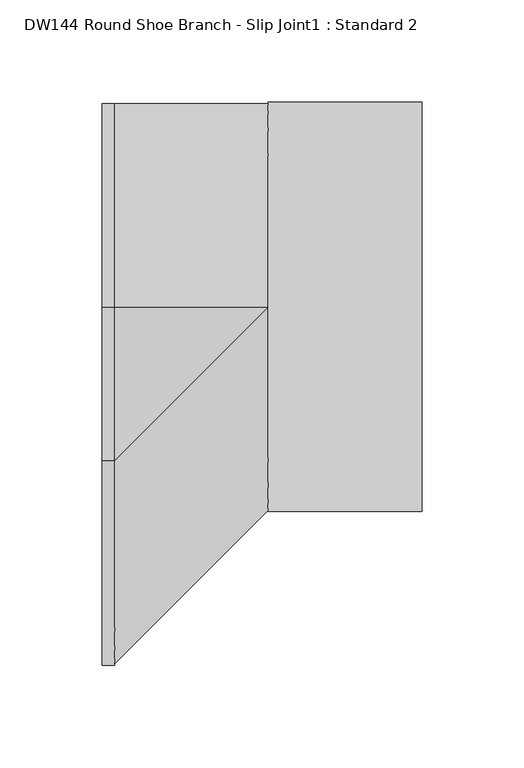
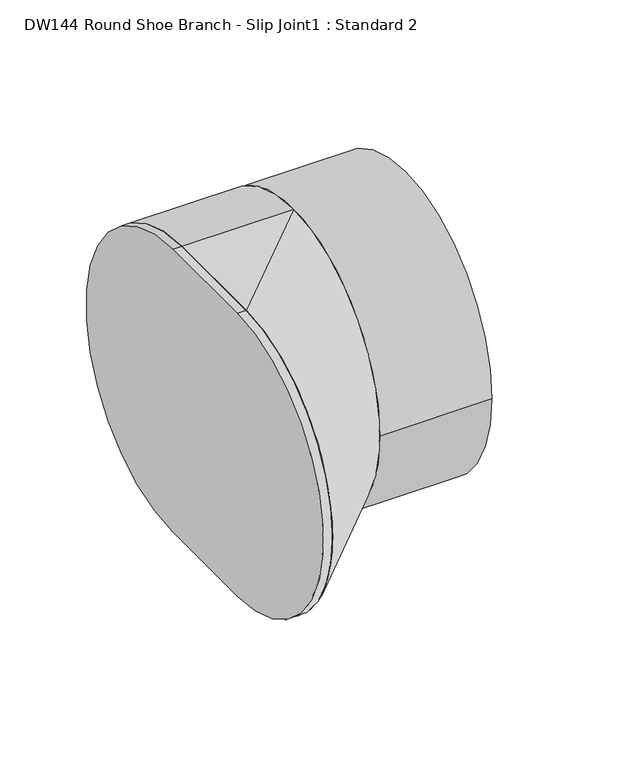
"""IFC4 building model written with IfcOpenShell, lengths in millimetres: duct fitting geometry, DW144 Round Shoe Branch - Slip Joint1 : Standard 2."""

import ifcopenshell
import ifcopenshell.guid

model = None  # the IFC model being written
_history = None  # IfcOwnerHistory: only IFC2X3 demands one
_inside = {}  # id of a spatial element -> (the spatial element, [elements in it])
_under = {}  # id of a project, library or spatial element -> (it, [spatial elements below it])
_declared = {}  # id of a project -> (the project, [libraries it declares])
_typed = {}  # id of a type object -> (the type object, [elements of that type])
_made_of = {}  # id of a material, layer set ... -> (it, [elements and type objects made of it])


def new_model(schema):
    """Start an empty IFC model of exactly this schema.

    Asked for "IFC4X3", IfcOpenShell would pick the latest addendum, in which some entities
    have other attributes; the version numbers below select the first issue.
    IFC2X3 requires an IfcOwnerHistory on every rooted entity: one is made here for all.
    """
    global model, _history
    if schema == "IFC4X3":
        model = ifcopenshell.file(schema_version=(4, 3, 0, 0))
    else:
        model = ifcopenshell.file(schema=schema)
    _inside.clear()
    _under.clear()
    _declared.clear()
    _typed.clear()
    _made_of.clear()
    _history = None
    if model.schema == "IFC2X3":
        org = make("IfcOrganization", Name="unknown")
        user = make(
            "IfcPersonAndOrganization",
            ThePerson=make("IfcPerson", FamilyName="unknown"),
            TheOrganization=org,
        )
        app = make(
            "IfcApplication",
            ApplicationDeveloper=org,
            Version="unknown",
            ApplicationFullName="unknown",
            ApplicationIdentifier="unknown",
        )
        _history = make(
            "IfcOwnerHistory",
            OwningUser=user,
            OwningApplication=app,
            ChangeAction="ADDED",
            CreationDate=0,
        )
    return model


def make(cls, **values):
    """One entity of the class cls with the attributes given. An attribute that is None is left unset."""
    return model.create_entity(
        cls, **{name: value for name, value in values.items() if value is not None}
    )


def rooted(cls, **values):
    """An entity with a GlobalId (a new one), such as an element, a storey or a relation."""
    return make(cls, GlobalId=ifcopenshell.guid.new(), OwnerHistory=_history, **values)


def si_unit(unit_type, name, prefix=None):
    """IfcSIUnit, for example si_unit("LENGTHUNIT", "METRE", prefix="MILLI")."""
    return make("IfcSIUnit", UnitType=unit_type, Prefix=prefix, Name=name)


def assignment(units):
    """IfcUnitAssignment: the units of a project."""
    return None if units is None else make("IfcUnitAssignment", Units=units)


def point(xyz):
    """IfcCartesianPoint."""
    return None if xyz is None else make("IfcCartesianPoint", Coordinates=xyz)


def direction(xyz):
    """IfcDirection."""
    return None if xyz is None else make("IfcDirection", DirectionRatios=xyz)


def frame(location, z_axis=None, x_axis=None):
    """IfcAxis2Placement3D, a coordinate frame: its origin and axes. An axis left out is left unset."""
    return make(
        "IfcAxis2Placement3D",
        Location=point(location),
        Axis=direction(z_axis),
        RefDirection=direction(x_axis),
    )


def frame_2d(location, x_axis=None):
    """IfcAxis2Placement2D, a coordinate frame in the plane: its origin and x axis."""
    return make(
        "IfcAxis2Placement2D", Location=point(location), RefDirection=direction(x_axis)
    )


def origin():
    """The frame at (0, 0, 0) with its axes left unset."""
    return frame((0.0, 0.0, 0.0))


def origin_2d():
    """The frame at (0, 0) in the plane with its x axis left unset."""
    return frame_2d((0.0, 0.0))


def place(relative_to, where):
    """IfcLocalPlacement: puts the frame where relative to a parent placement (None: the world)."""
    return make(
        "IfcLocalPlacement", PlacementRelTo=relative_to, RelativePlacement=where
    )


def context(
    kind, dimensions, precision=None, world=None, true_north=None, identifier=None
):
    """IfcGeometricRepresentationContext, for example the 3D "Model" context."""
    return make(
        "IfcGeometricRepresentationContext",
        ContextIdentifier=identifier,
        ContextType=kind,
        CoordinateSpaceDimension=dimensions,
        Precision=precision,
        WorldCoordinateSystem=world,
        TrueNorth=true_north,
    )


def project(units=None, contexts=None):
    """IfcProject with its units and contexts."""
    return rooted(
        "IfcProject",
        Name="project",
        RepresentationContexts=contexts,
        UnitsInContext=assignment(units),
    )


def spatial(cls, under=None, at=None, **own):
    """A site, building, storey or space (cls), placed at a placement, below another one or the project."""
    s = rooted(cls, ObjectPlacement=at, **own)
    if under is not None:
        _under.setdefault(under.id(), (under, []))[1].append(s)
    return s


def polyline(points):
    """IfcPolyline through the points."""
    return make("IfcPolyline", Points=[point(p) for p in points])


def circle_curve(where, radius):
    """IfcCircle in the frame where."""
    return make("IfcCircle", Position=where, Radius=radius)


def trimmed(basis, trim1, trim2, sense, master):
    """IfcTrimmedCurve: the piece of a basis curve between two trims."""
    return make(
        "IfcTrimmedCurve",
        BasisCurve=basis,
        Trim1=trim1,
        Trim2=trim2,
        SenseAgreement=sense,
        MasterRepresentation=master,
    )


def segment(curve, same_sense, transition):
    """IfcCompositeCurveSegment."""
    return make(
        "IfcCompositeCurveSegment",
        Transition=transition,
        SameSense=same_sense,
        ParentCurve=curve,
    )


def composite_curve(segments, self_intersect=None):
    """IfcCompositeCurve: segments joined end to end."""
    return make("IfcCompositeCurve", Segments=segments, SelfIntersect=self_intersect)


def outline(outer, holes=None, kind="AREA"):
    """IfcArbitraryClosedProfileDef: a profile drawn as a closed curve; with holes, ...WithVoids."""
    if holes is None:
        return make("IfcArbitraryClosedProfileDef", ProfileType=kind, OuterCurve=outer)
    return make(
        "IfcArbitraryProfileDefWithVoids",
        ProfileType=kind,
        OuterCurve=outer,
        InnerCurves=holes,
    )


def extrude(swept, where, along, depth):
    """IfcExtrudedAreaSolid: the profile swept, set in the frame where, extruded along a direction by depth."""
    return make(
        "IfcExtrudedAreaSolid",
        SweptArea=swept,
        Position=where,
        ExtrudedDirection=direction(along),
        Depth=depth,
    )


def shape(context_of_items, identifier, shape_type, items):
    """IfcShapeRepresentation: the items that make up one representation, for example the "Body"."""
    return make(
        "IfcShapeRepresentation",
        ContextOfItems=context_of_items,
        RepresentationIdentifier=identifier,
        RepresentationType=shape_type,
        Items=items,
    )


def source(mapping_origin, context_of_items, identifier, shape_type, items):
    """IfcRepresentationMap: a shape defined once, which mapped items show again and again."""
    return make(
        "IfcRepresentationMap",
        MappingOrigin=mapping_origin,
        MappedRepresentation=shape(context_of_items, identifier, shape_type, items),
    )


def transform(
    local_origin,
    x_axis=None,
    y_axis=None,
    z_axis=None,
    scale=None,
    scale2=None,
    scale3=None,
    uniform=True,
):
    """IfcCartesianTransformationOperator3D, or its non-uniform kind. x_axis, y_axis, z_axis: its Axis1, 2, 3."""
    if uniform:
        return make(
            "IfcCartesianTransformationOperator3D",
            Axis1=direction(x_axis),
            Axis2=direction(y_axis),
            LocalOrigin=point(local_origin),
            Scale=scale,
            Axis3=direction(z_axis),
        )
    return make(
        "IfcCartesianTransformationOperator3DnonUniform",
        Axis1=direction(x_axis),
        Axis2=direction(y_axis),
        LocalOrigin=point(local_origin),
        Scale=scale,
        Axis3=direction(z_axis),
        Scale2=scale2,
        Scale3=scale3,
    )


def mapped(mapping_source, mapping_target):
    """IfcMappedItem: shows the shape of a source again, moved by a transform."""
    return make(
        "IfcMappedItem", MappingSource=mapping_source, MappingTarget=mapping_target
    )


def made_of(thing, what):
    """Note that an element or type object is made of a material, layer set ...; save() writes the relation."""
    if what is not None:
        _made_of.setdefault(what.id(), (what, []))[1].append(thing)
    return thing


def element(
    cls,
    number,
    at=None,
    inside=None,
    cuts=None,
    type_object=None,
    material=None,
    context=None,
    identifier="Body",
    shape_type=None,
    held_by="IfcProductDefinitionShape",
    body=None,
    shapes=None,
    **own,
):
    """One element of the class cls, such as IfcWall. Its Tag is "e" and its number.

    at: its placement. inside: the storey or other place that contains it. cuts: it is an
    opening in that element (IfcRelVoidsElement). A single representation is given by context,
    identifier, shape_type and body (its items); several are given by shapes. held_by: the class
    of the entity that holds the representations. save() writes the other relations.
    """
    e = rooted(cls, Tag="e%d" % number, ObjectPlacement=at, **own)
    if body is not None:
        shapes = [shape(context, identifier, shape_type, body)]
    if shapes is not None:
        e.Representation = make(held_by, Representations=shapes)
    if inside is not None:
        _inside.setdefault(inside.id(), (inside, []))[1].append(e)
    if cuts is not None:
        rooted(
            "IfcRelVoidsElement", RelatingBuildingElement=cuts, RelatedOpeningElement=e
        )
    if type_object is not None:
        _typed.setdefault(type_object.id(), (type_object, []))[1].append(e)
    return made_of(e, material)


def aggregate(whole, parts):
    """IfcRelAggregates: a whole, such as a stair, and the parts it consists of."""
    return rooted("IfcRelAggregates", RelatingObject=whole, RelatedObjects=parts)


def save(model, path):
    """Write the relations noted so far, then the file.

    IfcRelAggregates (storeys below a building ...), IfcRelContainedInSpatialStructure (elements
    in a storey), IfcRelDefinesByType, IfcRelAssociatesMaterial and IfcRelDeclares: one each for
    every whole, place, type object, material and project.
    """
    for whole, parts in _under.values():
        aggregate(whole, parts)
    for where, things in _inside.values():
        rooted(
            "IfcRelContainedInSpatialStructure",
            RelatedElements=things,
            RelatingStructure=where,
        )
    for kind, things in _typed.values():
        rooted("IfcRelDefinesByType", RelatedObjects=things, RelatingType=kind)
    for what, things in _made_of.values():
        rooted("IfcRelAssociatesMaterial", RelatedObjects=things, RelatingMaterial=what)
    for by, libraries in _declared.values():
        rooted("IfcRelDeclares", RelatingContext=by, RelatedDefinitions=libraries)
    model.write(path)


def plane_surface(at):
    """IfcPlane: the flat surface through the origin of the frame at, square to its z axis."""
    return make("IfcPlane", Position=at)


def cylinder_surface(at, radius):
    """IfcCylindricalSurface: all points at the distance radius from the z axis of the frame at."""
    return make("IfcCylindricalSurface", Position=at, Radius=radius)


def extruded_surface(curve, direction_of_extrusion, depth):
    """IfcSurfaceOfLinearExtrusion: the curve pushed along a direction by depth."""
    return make(
        "IfcSurfaceOfLinearExtrusion",
        SweptCurve=make("IfcArbitraryOpenProfileDef", ProfileType="CURVE", Curve=curve),
        ExtrudedDirection=direction(direction_of_extrusion),
        Depth=depth,
    )


def advanced_brep(points, edges, surfaces, faces):
    """IfcAdvancedBrep: a solid bounded by faces that lie on surfaces and meet in shared edges.

    An edge is (start, end): straight between two places in points (the first is 0);
    or (start, end, curve); or (start, end, curve, False) where it runs against its curve.
    A face is (place in surfaces, loops), or (place, loops, False) where it looks against
    its surface's normal. A loop lists edges by number (the first is 1), with a minus sign
    where the edge is run from its end to its start. The first loop is the outer one.
    """
    corners = [point(p) for p in points]
    vertices = [make("IfcVertexPoint", VertexGeometry=c) for c in corners]
    made = []
    for start, end, *more in edges:
        made.append(
            make(
                "IfcEdgeCurve",
                EdgeStart=vertices[start],
                EdgeEnd=vertices[end],
                EdgeGeometry=more[0] if more else make("IfcPolyline", Points=[corners[start], corners[end]]),
                SameSense=more[1] if len(more) > 1 else True,
            )
        )
    hull = []
    for where, loops, *sense in faces:
        bounds = []
        for j, loop in enumerate(loops):
            ring = [make("IfcOrientedEdge", EdgeElement=made[abs(k) - 1], Orientation=k > 0) for k in loop]
            bounds.append(
                make(
                    "IfcFaceOuterBound" if j == 0 else "IfcFaceBound",
                    Bound=make("IfcEdgeLoop", EdgeList=ring),
                    Orientation=True,
                )
            )
        hull.append(make("IfcAdvancedFace", Bounds=bounds, FaceSurface=surfaces[where], SameSense=sense[0] if sense else True))
    return make("IfcAdvancedBrep", Outer=make("IfcClosedShell", CfsFaces=hull))


def dw144_round_shoe_branch_slip_joint1_standard_2_3d3e17b1(model_context):
    return source(origin(), model_context, "Body", "SolidModel", [
        extrude(outline(composite_curve([segment(trimmed(circle_curve(origin_2d(), 100.0), [point((-100.0, 0.0))], [point((100.0, 0.0))], False, "CARTESIAN"), True, "CONTINUOUS"), segment(trimmed(circle_curve(origin_2d(), 100.0), [point((100.0, 0.0))], [point((-100.0, 0.0))], False, "CARTESIAN"), True, "CONTINUOUS")], self_intersect=False)), frame((75.0, 0.0, 0.0), z_axis=(1.0, 0.0, 0.0), x_axis=(0.0, 1.0, 0.0)), (0.0, 0.0, 1.0), 75.0),
        advanced_brep(
        [(75.0, 0.0, -100.0), (75.0, 0.0, 100.0), (0.0, 0.0, -100.0), (0.0, -75.0, -100.0), (0.0, -75.0, 100.0), (0.0, 0.0, 100.0)],
        [
            (0, 1, circle_curve(frame((75.0, 0.0, 0.0), z_axis=(1.0, 0.0, 0.0), x_axis=(0.0, 1.0, 0.0)), 100.0)),
            (1, 0, circle_curve(frame((75.0, 0.0, 0.0), z_axis=(1.0, 0.0, 0.0), x_axis=(0.0, 1.0, 0.0)), 100.0)),
            (2, 3),
            (3, 4, circle_curve(frame((0.0, -75.0, 0.0), z_axis=(-1.0, 0.0, 0.0), x_axis=(0.0, 1.0, 0.0)), 100.0)),
            (4, 5),
            (5, 2, circle_curve(frame((0.0, 0.0, 0.0), z_axis=(-1.0, 0.0, 0.0), x_axis=(0.0, 1.0, 0.0)), 100.0)),
            (5, 1),
            (0, 2),
            (4, 1),
            (3, 0),
        ],
        [
            plane_surface(frame((75.0, 0.0, 0.0), z_axis=(1.0, 0.0, 0.0), x_axis=(0.0, 1.0, 0.0))),
            plane_surface(frame((0.0, -37.5, 0.0), z_axis=(-1.0, 0.0, 0.0), x_axis=(0.0, 1.0, 0.0))),
            cylinder_surface(frame((0.0, 0.0, 0.0), z_axis=(1.0, 0.0, 0.0), x_axis=(0.0, 1.0, 0.0)), 100.0),
            plane_surface(frame((0.0, -37.5, 100.0), z_axis=(0.0, 0.0, 1.0), x_axis=(0.0, -1.0, 0.0))),
            extruded_surface(trimmed(circle_curve(frame((0.0, -75.0, 0.0), z_axis=(1.0, 0.0, 0.0), x_axis=(0.0, 1.0, 0.0)), 100.0), [point((0.0, -75.0, 100.0))], [point((0.0, -75.0, -100.0))], True, "CARTESIAN"), (75.0, 75.0, 0.0), 106.06601717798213),
            plane_surface(frame((0.0, -37.5, -100.0), z_axis=(0.0, 0.0, -1.0), x_axis=(0.0, 1.0, 0.0))),
        ],
        [
            (0, [[1, 2]]),
            (1, [[3, 4, 5, 6]]),
            (2, [[-6, 7, -1, 8]]),
            (3, [[-5, 9, -7]]),
            (4, [[-4, 10, -2, -9]]),
            (5, [[-3, -8, -10]]),
        ],
    ),
        extrude(outline(composite_curve([segment(polyline([(0.0, -100.0), (-75.0, -100.0)]), True, "CONTINUOUS"), segment(trimmed(circle_curve(frame_2d((-75.0, 0.0)), 100.0), [point((-75.0, -100.0))], [point((-75.0, 100.0))], False, "CARTESIAN"), True, "CONTINUOUS"), segment(polyline([(-75.0, 100.0), (0.0, 100.0)]), True, "CONTINUOUS"), segment(trimmed(circle_curve(origin_2d(), 100.0), [point((0.0, 100.0))], [point((0.0, -100.0))], False, "CARTESIAN"), True, "CONTINUOUS")], self_intersect=False)), frame((-6.096, 0.0, 0.0), z_axis=(1.0, 0.0, 0.0), x_axis=(0.0, 1.0, 0.0)), (0.0, 0.0, 1.0), 6.096),
    ])


if __name__ == "__main__":
    model = new_model("IFC4")
    model_context = context("Model", 3, world=origin())
    ifc_project = project(units=[si_unit("LENGTHUNIT", "METRE", prefix="MILLI")], contexts=[model_context])
    site = spatial("IfcSite", under=ifc_project)
    building = spatial("IfcBuilding", under=site)
    placement = place(None, origin())
    dw144_round_shoe_branch_slip_joint1_standard_2_shape = dw144_round_shoe_branch_slip_joint1_standard_2_3d3e17b1(model_context)
    element("IfcDuctFitting", 1, ObjectType="DW144 Round Shoe Branch - Slip Joint1 : Standard 2", at=placement, inside=building, context=model_context, shape_type="MappedRepresentation", body=[
        mapped(dw144_round_shoe_branch_slip_joint1_standard_2_shape, transform((0.0, 0.0, 0.0), x_axis=(1.0, 0.0, 0.0), y_axis=(0.0, 1.0, 0.0), z_axis=(0.0, 0.0, 1.0))),
    ])
    save(model, "model.ifc")
